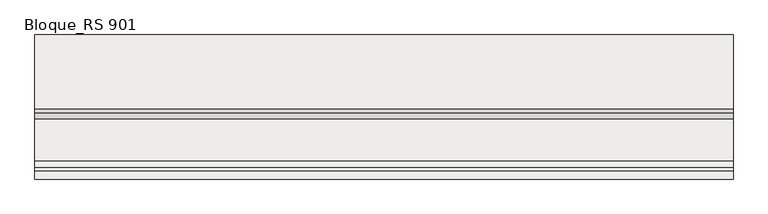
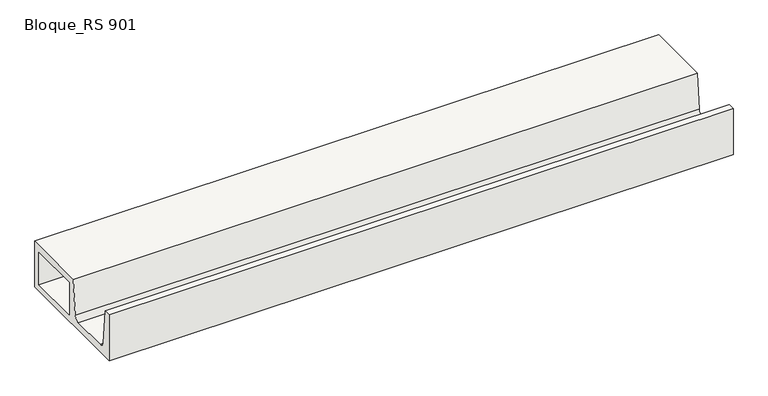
"""IFC4 building model written with IfcOpenShell, lengths in millimetres: slab geometry, ROSA GRES_RS 901 : Bloque_RS 901."""

from ifc_helpers import new_model, si_unit, point, frame, frame_2d, origin, place, context, project, spatial, polyline, circle_curve, trimmed, segment, composite_curve, outline, extrude, source, transform, mapped, element, save


def bloque_rs_901_6b5c8436(model_context):
    return source(origin(), model_context, "Body", "SweptSolid", [
        extrude(outline(composite_curve([segment(polyline([(-12.836227, 188.7539108), (-12.836227, 1.7539108), (-508.836227, 1.7539108), (-508.836227, 188.7539108), (-481.967602, 188.7539108), (-468.4315983, 49.1487962)]), True, "CONTINUOUS"), segment(trimmed(circle_curve(frame_2d((-448.7892677, 51.599206)), 19.7945866), [point((-468.4315983, 49.1487962))], [point((-448.3978535, 31.8084896))], True, "CARTESIAN"), True, "CONTINUOUS"), segment(polyline([(-448.3978535, 31.8084896), (-302.2746005, 31.8084896)]), True, "CONTINUOUS"), segment(trimmed(circle_curve(frame_2d((-301.8831862, 51.599206)), 19.7945866), [point((-302.2746005, 31.8084896))], [point((-282.2408556, 49.1487962))], True, "CARTESIAN"), True, "CONTINUOUS"), segment(polyline([(-282.2408556, 49.1487962), (-268.704852, 188.7539108), (-12.836227, 188.7539108)]), True, "CONTINUOUS")], self_intersect=False), holes=[polyline([(-241.836227, 158.7539108), (-241.836227, 26.7539108), (-37.836227, 26.7539108), (-37.836227, 158.7539108), (-241.836227, 158.7539108)])]), frame((0.0, 0.0, 0.0), z_axis=(1.0, 0.0, 0.0), x_axis=(0.0, 1.0, 0.0)), (0.0, 0.0, 1.0), 2402.5),
    ])


if __name__ == "__main__":
    model = new_model("IFC4")
    model_context = context("Model", 3, world=origin())
    ifc_project = project(units=[si_unit("LENGTHUNIT", "METRE", prefix="MILLI")], contexts=[model_context])
    site = spatial("IfcSite", under=ifc_project)
    building = spatial("IfcBuilding", under=site)
    placement = place(None, origin())
    bloque_rs_901_shape = bloque_rs_901_6b5c8436(model_context)
    element("IfcSlab", 1, ObjectType="ROSA GRES_RS 901 : Bloque_RS 901", at=placement, inside=building, context=model_context, shape_type="MappedRepresentation", body=[
        mapped(bloque_rs_901_shape, transform((0.0, 0.0, 0.0), x_axis=(1.0, 0.0, 0.0), y_axis=(0.0, 1.0, 0.0), z_axis=(0.0, 0.0, 1.0))),
    ])
    save(model, "model.ifc")
